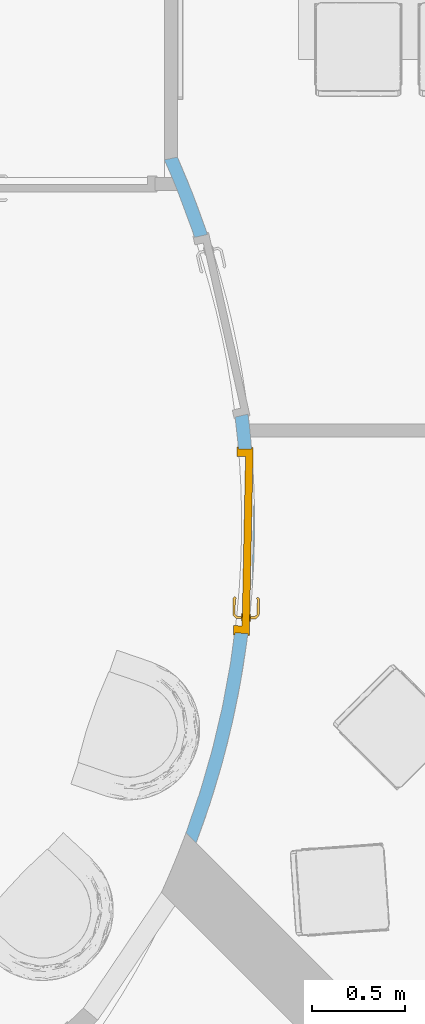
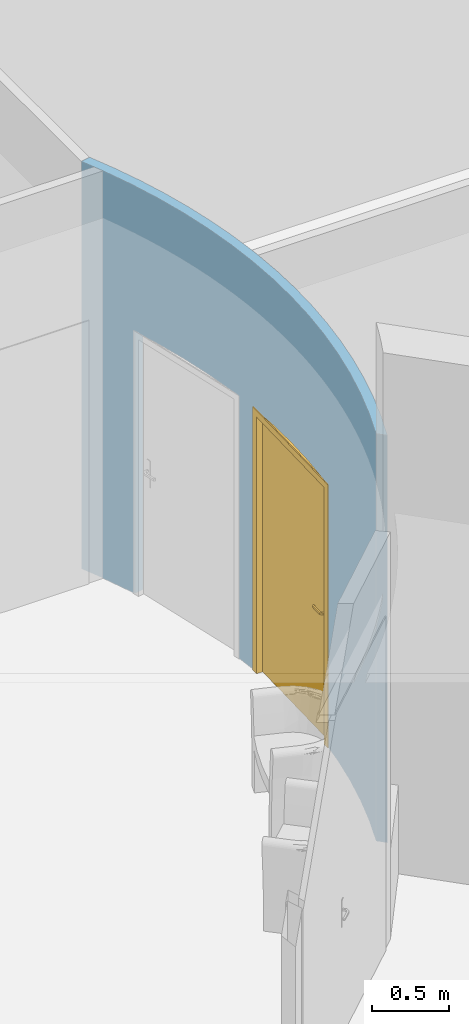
# One storey, part 57 of 137: 1 door, 2 openings, plus 1 element that does not belong to this part.
"""IFC2X3 building model written with IfcOpenShell, lengths in centimetres."""

from ifc_helpers import new_model, entity, si_unit, converted_unit, derived_unit, direction, frame, frame_2d, origin, place, context, subcontext, project, spatial, polyline, rectangle, outline, extrude, faceted_brep, source, transform, mapped, material, material_list, layer, layer_set, layer_usage, type_object, type_shapes, element, fill, save


model = new_model("IFC2X3")

# Units and contexts
model_context = context("Model", 3, precision=0.001, world=origin(), true_north=direction((6.12303176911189e-17, 1.0)))
body_context = subcontext(model_context, "Body", "Model", "MODEL_VIEW")
ifc_project = project(units=[si_unit("LENGTHUNIT", "METRE", prefix="CENTI"), si_unit("AREAUNIT", "SQUARE_METRE"), si_unit("VOLUMEUNIT", "CUBIC_METRE"), converted_unit("PLANEANGLEUNIT", "DEGREE", entity("IfcRatioMeasure", 0.0174532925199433), si_unit("PLANEANGLEUNIT", "RADIAN"), dimensions=[0, 0, 0, 0, 0, 0, 0]), si_unit("MASSUNIT", "GRAM", prefix="KILO"), si_unit("TIMEUNIT", "SECOND"), si_unit("FREQUENCYUNIT", "HERTZ"), si_unit("THERMODYNAMICTEMPERATUREUNIT", "DEGREE_CELSIUS"), derived_unit("THERMALTRANSMITTANCEUNIT", [(si_unit("MASSUNIT", "GRAM", prefix="KILO"), 1), (si_unit("THERMODYNAMICTEMPERATUREUNIT", "KELVIN"), -1), (si_unit("TIMEUNIT", "SECOND"), -3)]), derived_unit("VOLUMETRICFLOWRATEUNIT", [(si_unit("LENGTHUNIT", "METRE"), 3), (si_unit("TIMEUNIT", "SECOND"), -1)]), si_unit("ELECTRICCURRENTUNIT", "AMPERE"), si_unit("ELECTRICVOLTAGEUNIT", "VOLT"), si_unit("POWERUNIT", "WATT"), si_unit("FORCEUNIT", "NEWTON", prefix="KILO"), si_unit("ILLUMINANCEUNIT", "LUX"), si_unit("LUMINOUSFLUXUNIT", "LUMEN"), si_unit("LUMINOUSINTENSITYUNIT", "CANDELA"), derived_unit("USERDEFINED", [(si_unit("MASSUNIT", "GRAM", prefix="KILO"), -1), (si_unit("LENGTHUNIT", "METRE"), -2), (si_unit("TIMEUNIT", "SECOND"), 3), (si_unit("LUMINOUSFLUXUNIT", "LUMEN"), 1)]), derived_unit("LINEARVELOCITYUNIT", [(si_unit("LENGTHUNIT", "METRE"), 1), (si_unit("TIMEUNIT", "SECOND"), -1)]), si_unit("PRESSUREUNIT", "PASCAL"), derived_unit("USERDEFINED", [(si_unit("LENGTHUNIT", "METRE"), -2), (si_unit("MASSUNIT", "GRAM", prefix="KILO"), 1), (si_unit("TIMEUNIT", "SECOND"), -2)])], contexts=[model_context])

# Site, building, storey
site_placement = place(None, frame((8.62739174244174, -249.285249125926, 0.0)))
site = spatial("IfcSite", under=ifc_project, at=site_placement, Name="Default", CompositionType="ELEMENT")
building_placement = place(site_placement, origin())
building = spatial("IfcBuilding", under=site, at=building_placement, CompositionType="ELEMENT")
storey_placement = place(building_placement, origin())
storey = spatial("IfcBuildingStorey", under=building, at=storey_placement, Name="RDC", CompositionType="ELEMENT", Elevation=-8.82465566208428e-11)

# Wall, openings, door
ifc_material_1 = material(Name="Plâtre EXISTANT")
ifc_layer = layer(ifc_material_1, 7.0)
ifc_layer_set = layer_set([ifc_layer], Name="Mur de base:PLA EXISTANT 7")
ifc_layer_usage = layer_usage(ifc_layer_set, "AXIS2", "POSITIVE", -3.5)
wall_type = type_object("IfcWallType", Name="Mur de base:PLA EXISTANT 7", PredefinedType="STANDARD", material=ifc_layer_set)
wall_placement = place(storey_placement, frame((3485.10193499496, 949.322407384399, 0.0)))
wall = element("IfcWallStandardCase", 1, at=wall_placement, inside=storey, type_object=wall_type, material=ifc_layer_usage, Name="Mur de base:PLA EXISTANT 7", ObjectType="Mur de base:PLA EXISTANT 7", context=body_context, shape_type="SweptSolid", body=[
    extrude(outline(polyline([(13.8800421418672, -368.419348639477), (21.2501089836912, -347.485910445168), (27.6574641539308, -326.238222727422), (33.0888253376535, -304.720382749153), (37.5328806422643, -282.977232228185), (40.9803869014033, -261.054035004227), (43.4241738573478, -238.996428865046), (44.8591590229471, -216.850330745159), (45.2823582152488, -194.66184134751), (44.6928917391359, -172.477149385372), (43.0919511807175, -150.342677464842), (42.3735633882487, -143.341451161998), (39.5838551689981, -122.229995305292), (35.8725512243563, -101.260581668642), (31.2468482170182, -80.4737322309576), (25.7155992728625, -59.9092492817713), (19.2893847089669, -39.6065115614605), (11.9805365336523, -19.6045136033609), (3.80289281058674, 0.0587776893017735), (-3.1971071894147, -1.42425616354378), (0.869883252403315, -10.8227096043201), (3.7454516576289, -17.821420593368), (11.9793480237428, -39.8710689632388), (19.1215788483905, -62.3005511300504), (25.1540810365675, -85.0535984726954), (30.0623112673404, -108.075348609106), (33.8344360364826, -131.310291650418), (36.4613601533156, -154.702403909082), (37.9367486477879, -178.195282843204), (38.2570420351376, -201.732282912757), (37.421464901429, -225.256652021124), (35.4320277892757, -248.711668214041), (32.2935223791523, -272.040776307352), (28.0135099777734, -295.187724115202), (22.6023033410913, -318.096697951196), (16.0729527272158, -340.712422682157), (8.44116027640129, -362.980466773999), (13.8800421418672, -368.419348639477)])), origin(), (0.0, 0.0, 1.0), 322.000000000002),
])
opening_1_placement = place(wall_placement, frame((51.7674726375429, -135.781967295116, 0.0)))
element("IfcOpeningElement", 2, at=opening_1_placement, cuts=wall, Name="Simple(R)-bois_MU:93x204cm_MU:1", ObjectType="Opening", context=body_context, shape_type="SweptSolid", body=[
    extrude(rectangle(XDim=206.999999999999, YDim=98.9999999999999, at=frame_2d((103.499999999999, 49.5), x_axis=(1.0, 0.0))), frame((0.0, 0.0, 0.0), z_axis=(-0.975369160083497, -0.220578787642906, 0.0), x_axis=(0.0, 0.0, 1.0)), (0.0, 0.0, 1.0), 19.0113771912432),
])
opening_2_placement = place(wall_placement, frame((26.4162043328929, -156.530129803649, 0.0)))
opening_2 = element("IfcOpeningElement", 3, at=opening_2_placement, cuts=wall, Name="Simple(R)-bois_MU:93x204cm_MU:1", ObjectType="Opening", context=body_context, shape_type="SweptSolid", body=[
    extrude(rectangle(XDim=206.999999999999, YDim=98.9999999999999, at=frame_2d((103.499999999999, 49.5), x_axis=(1.0, 0.0))), frame((0.0, 0.0, 0.0), z_axis=(0.999791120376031, -0.0204380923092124, 0.0), x_axis=(0.0, 0.0, 1.0)), (0.0, 0.0, 1.0), 19.0113771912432),
])
ifc_material_2 = material(Name="Porte-Poignée_MU")
ifc_material_3 = material(Name="Porte-Cadre_MU")
ifc_material_4 = material(Name="Porte Panneau_MU")
ifc_material_list_1 = material_list([ifc_material_2, ifc_material_3, ifc_material_4])
ifc_material_list_2 = material_list([ifc_material_2, ifc_material_3, ifc_material_4])
door_style = type_object("IfcDoorStyle", Name="93x204cm_MU", ConstructionType="NOTDEFINED", OperationType="SINGLE_SWING_RIGHT", ParameterTakesPrecedence=False, Sizeable=False, material=ifc_material_list_2)
shared_shape = source(origin(), body_context, "Body", "Brep", [
    faceted_brep([(8.29747013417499, 3.69999999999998, 100.778044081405), (7.89999999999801, 3.69999999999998, 100.699999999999), (7.89999999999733, 3.69999999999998, 99.2999999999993), (8.2974701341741, 3.69999999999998, 99.2219559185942), (8.70252986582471, 3.69999999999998, 99.2219559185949), (9.10000000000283, 3.69999999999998, 99.3000000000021), (9.10000000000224, 3.69999999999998, 100.699999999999), (8.70252986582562, 3.69999999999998, 100.778044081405), (9.10000000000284, 5.94852045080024, 99.3000000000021), (9.10000000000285, 5.94852045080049, 100.699999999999), (8.70252986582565, 6.1131579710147, 100.778044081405), (10.0838906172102, 7.49451872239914, 100.778044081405), (9.91610938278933, 7.89957845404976, 100.778044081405), (8.29747013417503, 6.2809392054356, 100.778044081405), (19.0684749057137, 6.84673156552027, 100.778044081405), (19.3548953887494, 7.13315204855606, 100.778044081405), (18.5884689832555, 7.89957845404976, 100.778044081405), (18.4206877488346, 7.49451872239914, 100.778044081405), (7.89999999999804, 6.44557672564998, 100.699999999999), (7.89999999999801, 6.44557672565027, 99.2999999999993), (8.29747013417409, 6.28093920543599, 99.2219559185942), (9.91610938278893, 7.8995784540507, 99.2219559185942), (10.0838906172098, 7.49451872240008, 99.2219559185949), (8.70252986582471, 6.11315797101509, 99.2219559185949), (19.35489538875, 7.13315204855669, 99.2219559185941), (19.0684749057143, 6.84673156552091, 99.2219559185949), (18.420687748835, 7.49451872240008, 99.2219559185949), (18.5884689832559, 7.8995784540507, 99.2219559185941), (10.2485281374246, 7.09704858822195, 99.3000000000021), (10.2485281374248, 7.09704858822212, 100.699999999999), (9.75147186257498, 8.29704858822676, 100.699999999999), (9.75147186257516, 8.29704858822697, 99.2999999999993), (14.2522904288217, 7.09704858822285, 99.3000000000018), (18.2560502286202, 7.09704858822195, 99.3000000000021), (18.2560502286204, 7.09704858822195, 100.699999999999), (14.2522891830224, 7.09704858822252, 100.699999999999), (14.2522891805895, 7.71249275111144, 100.787811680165), (18.7531065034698, 8.29704858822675, 100.699999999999), (14.7600577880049, 8.29704858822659, 100.699999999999), (18.7531065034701, 8.29704858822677, 99.2999999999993), (13.7445206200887, 8.29704858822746, 99.2999999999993), (14.2522892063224, 7.71249274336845, 99.2121883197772), (18.787421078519, 6.56567773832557, 99.3000000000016), (19.635949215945, 7.41420587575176, 99.2999999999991), (19.6359492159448, 7.4142058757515, 100.699999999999), (18.7874210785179, 6.5656777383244, 100.699999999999)], [[[0, 1, 2, 3, 4, 5, 6, 7]], [[6, 5, 8, 9]], [[9, 10, 7, 6]], [[10, 11, 12, 13, 0, 7]], [[14, 15, 16, 17]], [[13, 18, 1, 0]], [[2, 1, 18, 19]], [[19, 20, 3, 2]], [[20, 21, 22, 23, 4, 3]], [[24, 25, 26, 27]], [[23, 8, 5, 4]], [[9, 8, 28, 29]], [[29, 11, 10, 9]], [[12, 30, 18, 13]], [[19, 18, 30, 31]], [[31, 21, 20, 19]], [[22, 28, 8, 23]], [[29, 28, 32, 33, 34, 35]], [[11, 35, 36]], [[16, 37, 38]], [[30, 12, 38]], [[38, 12, 36]], [[36, 35, 17]], [[17, 16, 36]], [[35, 11, 29]], [[34, 17, 35]], [[11, 36, 12]], [[38, 36, 16]], [[31, 30, 38, 37, 39, 40]], [[40, 41, 21]], [[41, 40, 27]], [[21, 31, 40]], [[39, 27, 40]], [[41, 32, 22]], [[22, 21, 41]], [[26, 32, 41]], [[28, 22, 32]], [[32, 26, 33]], [[26, 41, 27]], [[42, 25, 24, 43, 44, 15, 14, 45]], [[34, 33, 42, 45]], [[45, 14, 17, 34]], [[15, 44, 37, 16]], [[39, 37, 44, 43]], [[43, 24, 27, 39]], [[25, 42, 33, 26]]]),
    faceted_brep([(8.29747013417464, -1.30000000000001, 100.778044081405), (8.70252986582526, -1.30000000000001, 100.778044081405), (9.10000000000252, -1.30000000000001, 100.699999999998), (9.10000000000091, -1.30000000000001, 99.3000000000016), (8.70252986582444, -1.30000000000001, 99.2219559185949), (8.29747013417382, -1.30000000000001, 99.2219559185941), (7.8999999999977, -1.30000000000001, 99.2999999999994), (7.89999999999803, -1.30000000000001, 100.699999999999), (7.89999999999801, -4.06509507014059, 100.699999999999), (8.29747013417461, -3.90045754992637, 100.778044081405), (9.90235851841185, -5.50534593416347, 100.778044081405), (10.0701397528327, -5.10028620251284, 100.778044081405), (8.70252986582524, -3.73267631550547, 100.778044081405), (19.3521810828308, -4.73891952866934, 100.778044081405), (19.0657605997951, -4.4524990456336, 100.778044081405), (18.4179734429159, -5.10028620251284, 100.778044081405), (18.5857546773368, -5.50534593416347, 100.778044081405), (9.10000000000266, -3.56803879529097, 100.699999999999), (9.10000000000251, -3.56803879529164, 99.3000000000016), (8.70252986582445, -3.7326763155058, 99.2219559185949), (10.0701397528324, -5.10028620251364, 99.2219559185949), (9.90235851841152, -5.50534593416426, 99.2219559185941), (8.29747013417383, -3.9004575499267, 99.2219559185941), (19.0657605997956, -4.45249904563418, 99.2219559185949), (19.3521810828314, -4.73891952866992, 99.2219559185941), (18.5857546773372, -5.50534593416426, 99.2219559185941), (18.4179734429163, -5.10028620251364, 99.2219559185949), (7.89999999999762, -4.06509507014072, 99.2999999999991), (9.73772099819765, -5.90281606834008, 100.699999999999), (10.2347772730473, -4.70281606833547, 100.699999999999), (10.2347772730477, -4.70281606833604, 99.3000000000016), (9.73772099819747, -5.90281606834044, 99.2999999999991), (13.7307697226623, -5.90281606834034, 100.699999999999), (14.2440566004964, -5.31828027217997, 100.787811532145), (18.7503921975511, -5.90281606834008, 100.699999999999), (14.2440565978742, -4.70281606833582, 100.699999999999), (18.2533359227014, -4.70281606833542, 100.699999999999), (18.2533359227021, -4.70281606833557, 99.3000000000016), (14.2440563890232, -4.70281606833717, 99.3000000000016), (14.2440565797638, -5.31828027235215, 99.2121884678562), (18.7503921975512, -5.90281606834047, 99.2999999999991), (14.7573433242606, -5.90281606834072, 99.2999999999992), (18.7847067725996, -4.1714452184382, 100.699999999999), (19.6332349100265, -5.01997335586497, 100.699999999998), (19.633234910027, -5.01997335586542, 99.2999999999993), (18.7847067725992, -4.17144521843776, 99.3000000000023)], [[[0, 1, 2, 3, 4, 5, 6, 7]], [[8, 9, 0, 7]], [[9, 10, 11, 12, 1, 0]], [[13, 14, 15, 16]], [[12, 17, 2, 1]], [[3, 2, 17, 18]], [[18, 19, 4, 3]], [[19, 20, 21, 22, 5, 4]], [[23, 24, 25, 26]], [[22, 27, 6, 5]], [[7, 6, 27, 8]], [[28, 10, 9, 8]], [[11, 29, 17, 12]], [[18, 17, 29, 30]], [[30, 20, 19, 18]], [[21, 31, 27, 22]], [[8, 27, 31, 28]], [[32, 33, 10]], [[33, 32, 16]], [[10, 28, 32]], [[34, 16, 32]], [[33, 35, 11]], [[11, 10, 33]], [[15, 35, 33]], [[29, 11, 35]], [[35, 15, 36]], [[15, 33, 16]], [[30, 29, 35, 36, 37, 38]], [[20, 38, 39]], [[25, 40, 41]], [[31, 21, 41]], [[41, 21, 39]], [[39, 38, 26]], [[26, 25, 39]], [[38, 20, 30]], [[37, 26, 38]], [[20, 39, 21]], [[41, 39, 25]], [[28, 31, 41, 40, 34, 32]], [[42, 14, 13, 43, 44, 24, 23, 45]], [[43, 13, 16, 34]], [[14, 42, 36, 15]], [[37, 36, 42, 45]], [[45, 23, 26, 37]], [[24, 44, 40, 25]], [[34, 40, 44, 43]]]),
    faceted_brep([(9.53527618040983, 3.19999999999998, 86.6003983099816), (10.4999999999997, 3.19999999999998, 87.0), (10.4999999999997, 3.19999999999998, 108.0), (9.53527618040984, 3.19999999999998, 108.399601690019), (8.49999999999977, 3.19999999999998, 108.535898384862), (7.46472381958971, 3.19999999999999, 108.399601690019), (6.49999999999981, 3.19999999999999, 108.0), (6.49999999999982, 3.19999999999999, 87.0), (7.4647238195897, 3.19999999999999, 86.6003983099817), (8.49999999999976, 3.19999999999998, 86.4641016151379), (9.53527618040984, 3.69999999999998, 108.399601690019), (10.4999999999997, 3.69999999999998, 108.0), (10.4999999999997, 3.69999999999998, 87.0), (9.53527618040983, 3.69999999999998, 86.6003983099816), (8.49999999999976, 3.69999999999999, 86.4641016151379), (7.4647238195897, 3.69999999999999, 86.6003983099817), (6.49999999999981, 3.69999999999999, 87.0), (6.49999999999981, 3.69999999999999, 108.0), (7.46472381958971, 3.69999999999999, 108.399601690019), (8.49999999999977, 3.69999999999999, 108.535898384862)], [[[0, 1, 2, 3, 4, 5, 6, 7, 8, 9]], [[10, 11, 12, 13, 14, 15, 16, 17, 18, 19]], [[11, 10, 3, 2]], [[3, 10, 19, 4]], [[19, 18, 5, 4]], [[18, 17, 6, 5]], [[7, 6, 17, 16]], [[16, 15, 8, 7]], [[8, 15, 14, 9]], [[14, 13, 0, 9]], [[13, 12, 1, 0]], [[2, 1, 12, 11]]]),
    faceted_brep([(9.53527618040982, -1.30000000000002, 86.6003983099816), (10.4999999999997, -1.30000000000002, 87.0), (10.4999999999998, -1.30000000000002, 108.0), (9.53527618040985, -1.30000000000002, 108.399601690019), (8.49999999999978, -1.30000000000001, 108.535898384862), (7.46472381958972, -1.30000000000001, 108.399601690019), (6.49999999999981, -1.30000000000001, 108.0), (6.49999999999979, -1.30000000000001, 87.0), (7.46472381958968, -1.30000000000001, 86.6003983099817), (8.49999999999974, -1.30000000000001, 86.4641016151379), (9.53527618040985, -0.800000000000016, 108.399601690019), (10.4999999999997, -0.800000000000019, 108.0), (10.4999999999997, -0.800000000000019, 87.0), (9.53527618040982, -0.800000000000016, 86.6003983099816), (8.49999999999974, -0.800000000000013, 86.4641016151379), (7.46472381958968, -0.800000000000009, 86.6003983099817), (6.49999999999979, -0.800000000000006, 87.0), (6.49999999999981, -0.800000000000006, 108.0), (7.46472381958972, -0.800000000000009, 108.399601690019), (8.49999999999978, -0.800000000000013, 108.535898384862)], [[[0, 1, 2, 3, 4, 5, 6, 7, 8, 9]], [[10, 11, 12, 13, 14, 15, 16, 17, 18, 19]], [[16, 15, 8, 7]], [[8, 15, 14, 9]], [[14, 13, 0, 9]], [[13, 12, 1, 0]], [[2, 1, 12, 11]], [[11, 10, 3, 2]], [[3, 10, 19, 4]], [[19, 18, 5, 4]], [[18, 17, 6, 5]], [[7, 6, 17, 16]]]),
    faceted_brep([(0.0, 0.0, 0.0), (0.0, 7.0, 0.0), (-1.0, 7.0, 0.0), (-1.0, 7.80000000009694, 0.0), (4.0, 7.80000000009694, 0.0), (4.0, 3.2, 0.0), (3.0, 3.2, 0.0), (3.0, -0.799999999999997, 0.0), (-1.0, -0.799999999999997, 0.0), (-1.0, 0.0, 0.0), (0.0, 0.0, 207.0), (0.0, 7.0, 207.0), (99.0, 7.0, 207.0), (99.0, 7.0, 0.0), (100.0, 7.0, 0.0), (100.0, 7.0, 208.0), (-1.0, 7.0, 208.0), (-1.0, 7.80000000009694, 208.0), (100.0, 7.80000000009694, 208.0), (100.0, 7.80000000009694, 0.0), (95.0, 7.80000000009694, 0.0), (95.0, 7.80000000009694, 203.0), (4.0, 7.80000000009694, 203.0), (4.0, 3.2, 203.0), (95.0, 3.2, 203.0), (95.0, 3.2, 0.0), (96.0, 3.2, 0.0), (96.0, 3.2, 204.0), (3.0, 3.2, 204.0), (3.0, -0.799999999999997, 204.0), (96.0, -0.799999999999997, 204.0), (96.0, -0.799999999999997, 0.0), (100.0, -0.799999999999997, 0.0), (100.0, -0.799999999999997, 208.0), (-1.0, -0.799999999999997, 208.0), (-1.0, 0.0, 208.0), (100.0, 0.0, 208.0), (100.0, 0.0, 0.0), (99.0, 0.0, 0.0), (99.0, 0.0, 207.0)], [[[0, 1, 2, 3, 4, 5, 6, 7, 8, 9]], [[1, 0, 10, 11]], [[2, 1, 11, 12, 13, 14, 15, 16]], [[3, 2, 16, 17]], [[4, 3, 17, 18, 19, 20, 21, 22]], [[5, 4, 22, 23]], [[6, 5, 23, 24, 25, 26, 27, 28]], [[7, 6, 28, 29]], [[8, 7, 29, 30, 31, 32, 33, 34]], [[9, 8, 34, 35]], [[0, 9, 35, 36, 37, 38, 39, 10]], [[12, 39, 38, 13]], [[38, 37, 32, 31, 26, 25, 20, 19, 14, 13]], [[18, 15, 14, 19]], [[24, 21, 20, 25]], [[30, 27, 26, 31]], [[36, 33, 32, 37]], [[11, 10, 39, 12]], [[17, 16, 15, 18]], [[23, 22, 21, 24]], [[29, 28, 27, 30]], [[35, 34, 33, 36]]]),
    faceted_brep([(3.0, -0.799999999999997, 204.0), (3.0, -0.799999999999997, 0.0), (96.0, -0.799999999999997, 0.0), (96.0, -0.799999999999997, 204.0), (3.0, 3.2, 204.0), (96.0, 3.2, 204.0), (96.0, 3.2, 0.0), (3.0, 3.2, 0.0)], [[[0, 1, 2, 3]], [[4, 5, 6, 7]], [[1, 0, 4, 7]], [[2, 1, 7, 6]], [[3, 2, 6, 5]], [[0, 3, 5, 4]]]),
])
type_shapes(door_style, [shared_shape])
door_placement = place(opening_2_placement, frame((15.2312183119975, -99.3320454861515, 0.0), z_axis=(0.0, 0.0, 1.0), x_axis=(0.0204380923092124, 0.999791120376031, 0.0)))
door = element("IfcDoor", 4, at=door_placement, inside=storey, type_object=door_style, material=ifc_material_list_1, Name="Simple(R)-bois_MU:93x204cm_MU", ObjectType="93x204cm_MU", OverallHeight=206.999999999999, OverallWidth=98.9999999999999, context=body_context, shape_type="MappedRepresentation", body=[
    mapped(shared_shape, transform((0.0, 0.0, 0.0), scale=1.0)),
])
fill(opening_2, door)

save(model, "model.ifc")
